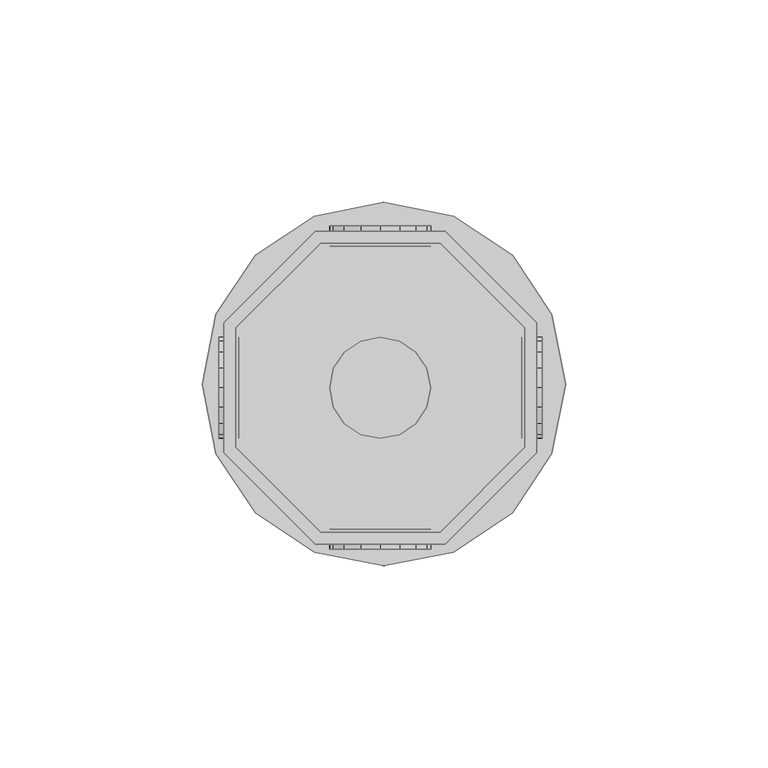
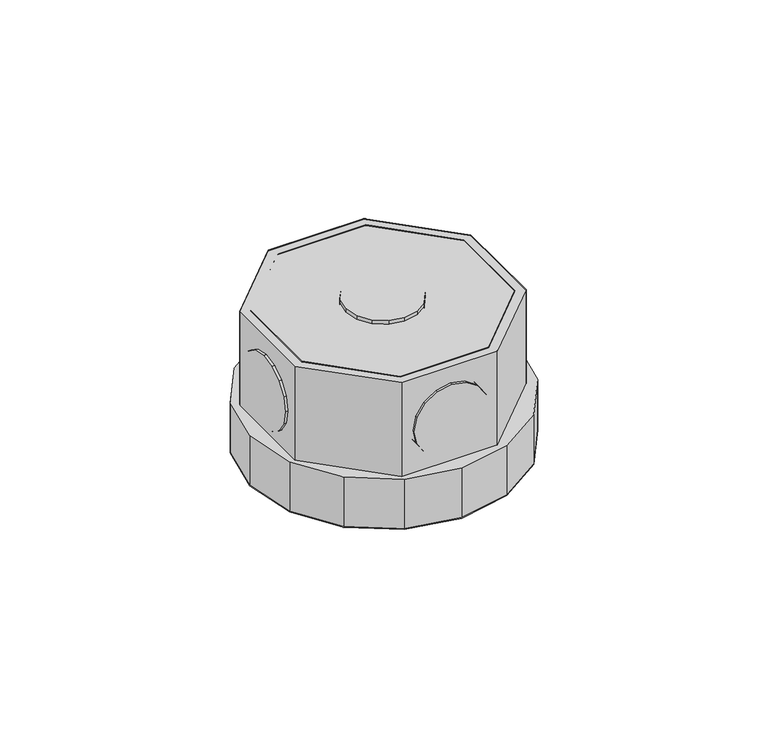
"""IFC4 building model written with IfcOpenShell, lengths in millimetres: light fixture geometry,  213096 :  213096."""

from ifc_helpers import new_model, si_unit, origin, place, context, project, spatial, triangles, source, transform, mapped, element, save


def light_fixture_41befa30(model_context):
    return source(origin(), model_context, "Body", "Tessellation", [
        triangles([(2384.0999714, 12257.0995148, 2924.5999741), (2384.0999714, 12227.5001587, 2975.400071), (2384.0999714, 12227.5001587, 2924.5999741), (2384.0999714, 12257.0995148, 2975.400071), (2458.5999298, 12258.2994415, 2924.5999741), (2458.5999298, 12226.200238, 2975.400071), (2458.5999298, 12226.200238, 2924.5999741), (2458.5999298, 12258.2994415, 2975.400071), (2405.0999977, 12206.5002777, 2975.400071), (2405.0999977, 12206.5002777, 2924.5999741), (2435.9000072, 12281.0003815, 2924.5999741), (2435.9000072, 12281.0003815, 2975.400071), (2434.6999352, 12206.5002777, 2975.400071), (2434.6999352, 12206.5002777, 2924.5999741), (2403.7999317, 12281.0003815, 2924.5999741), (2403.7999317, 12281.0003815, 2975.400071), (2455.6001129, 12227.5001587, 2975.400071), (2455.6001129, 12227.5001587, 2924.5999741), (2381.1000092, 12258.2994415, 2924.5999741), (2381.1000092, 12258.2994415, 2975.400071), (2455.6001129, 12257.0995148, 2924.5999741), (2455.6001129, 12257.0995148, 2975.400071), (2381.1000092, 12226.200238, 2975.400071), (2381.1000092, 12226.200238, 2924.5999741), (2434.6999352, 12278.0005646, 2924.5999741), (2434.6999352, 12278.0005646, 2975.400071), (2403.7999317, 12203.5004608, 2975.400071), (2403.7999317, 12203.5004608, 2924.5999741), (2435.9000072, 12203.5004608, 2975.400071), (2405.0999977, 12278.0005646, 2975.400071), (2405.0999977, 12278.0005646, 2924.5999741), (2435.9000072, 12203.5004608, 2924.5999741), (2434.6999352, 12206.5002777, 2972.3999634), (2455.6001129, 12227.5001587, 2972.3999634), (2455.6001129, 12257.0995148, 2972.3999634), (2434.6999352, 12278.0005646, 2972.3999634), (2405.0999977, 12278.0005646, 2972.3999634), (2384.0999714, 12257.0995148, 2972.3999634), (2384.0999714, 12227.5001587, 2972.3999634), (2405.0999977, 12206.5002777, 2972.3999634), (2403.7999317, 12203.5004608, 2942.4000504), (2381.1000092, 12226.200238, 2942.4000504), (2381.1000092, 12258.2994415, 2942.4000504), (2403.7999317, 12281.0003815, 2942.4000504), (2435.9000072, 12281.0003815, 2942.4000504), (2458.5999298, 12258.2994415, 2942.4000504), (2458.5999298, 12226.200238, 2942.4000504), (2435.9000072, 12203.5004608, 2942.4000504), (2462.2999947, 12225.9002563, 2942.4000504), (2438.0000244, 12201.6005768, 2942.4000504), (2452.6000053, 12211.2999847, 2942.4000504), (2420.8000568, 12198.1996216, 2942.4000504), (2403.49995, 12201.6005768, 2942.4000504), (2388.8999691, 12211.2999847, 2942.4000504), (2379.1999798, 12225.9002563, 2942.4000504), (2375.800042, 12243.2003632, 2942.4000504), (2379.1999798, 12260.4004761, 2942.4000504), (2403.49995, 12284.7001556, 2942.4000504), (2388.8999691, 12274.999585, 2942.4000504), (2465.8000717, 12243.2003632, 2942.4000504), (2462.2999947, 12260.4004761, 2942.4000504), (2452.6000053, 12274.999585, 2942.4000504), (2438.0000244, 12284.7001556, 2942.4000504), (2420.8000568, 12288.199942, 2942.4000504), (2438.0000244, 12201.6005768, 2924.5999741), (2462.2999947, 12225.9002563, 2924.5999741), (2452.6000053, 12211.2999847, 2924.5999741), (2420.8000568, 12198.1996216, 2924.5999741), (2403.49995, 12201.6005768, 2924.5999741), (2388.8999691, 12211.2999847, 2924.5999741), (2379.1999798, 12225.9002563, 2924.5999741), (2375.800042, 12243.2003632, 2924.5999741), (2379.1999798, 12260.4004761, 2924.5999741), (2403.49995, 12284.7001556, 2924.5999741), (2388.8999691, 12274.999585, 2924.5999741), (2465.8000717, 12243.2003632, 2924.5999741), (2462.2999947, 12260.4004761, 2924.5999741), (2452.6000053, 12274.999585, 2924.5999741), (2438.0000244, 12284.7001556, 2924.5999741), (2420.8000568, 12288.199942, 2924.5999741), (2379.8999371, 12230.6999634, 2952.6000092), (2379.8999371, 12237.4995483, 2945.9001274), (2379.8999371, 12233.3997986, 2948.5999626), (2379.8999371, 12229.8000183, 2957.4000069), (2379.8999371, 12242.3004181, 2944.8998978), (2379.8999371, 12230.6999634, 2962.2000046), (2379.8999371, 12247.1001251, 2945.9001274), (2379.8999371, 12233.3997986, 2966.2000511), (2379.8999371, 12251.099881, 2948.5999626), (2379.8999371, 12237.4995483, 2968.8998863), (2379.8999371, 12253.7997162, 2952.6000092), (2379.8999371, 12242.3004181, 2969.900116), (2379.8999371, 12254.7996552, 2957.4000069), (2379.8999371, 12247.1001251, 2968.8998863), (2379.8999371, 12253.7997162, 2962.2000046), (2379.8999371, 12251.099881, 2966.2000511), (2384.9000679, 12237.4995483, 2945.9001274), (2384.9000679, 12230.6999634, 2952.6000092), (2384.9000679, 12233.3997986, 2948.5999626), (2384.9000679, 12242.3004181, 2944.8998978), (2384.9000679, 12229.8000183, 2957.4000069), (2384.9000679, 12247.1001251, 2945.9001274), (2384.9000679, 12230.6999634, 2962.2000046), (2384.9000679, 12251.099881, 2948.5999626), (2384.9000679, 12233.3997986, 2966.2000511), (2384.9000679, 12237.4995483, 2968.8998863), (2384.9000679, 12253.7997162, 2952.6000092), (2384.9000679, 12242.3004181, 2969.900116), (2384.9000679, 12254.7996552, 2957.4000069), (2384.9000679, 12247.1001251, 2968.8998863), (2384.9000679, 12253.7997162, 2962.2000046), (2384.9000679, 12251.099881, 2966.2000511), (2454.899865, 12230.6999634, 2952.6000092), (2454.899865, 12237.4995483, 2945.9001274), (2454.899865, 12233.3997986, 2948.5999626), (2454.899865, 12229.8000183, 2957.4000069), (2454.899865, 12242.3004181, 2944.8998978), (2454.899865, 12230.6999634, 2962.2000046), (2454.899865, 12247.1001251, 2945.9001274), (2454.899865, 12233.3997986, 2966.2000511), (2454.899865, 12251.099881, 2948.5999626), (2454.899865, 12237.4995483, 2968.8998863), (2454.899865, 12253.7997162, 2952.6000092), (2454.899865, 12242.3004181, 2969.900116), (2454.899865, 12254.7996552, 2957.4000069), (2454.899865, 12247.1001251, 2968.8998863), (2454.899865, 12253.7997162, 2962.2000046), (2454.899865, 12251.099881, 2966.2000511), (2459.9001411, 12237.4995483, 2945.9001274), (2459.9001411, 12230.6999634, 2952.6000092), (2459.9001411, 12233.3997986, 2948.5999626), (2459.9001411, 12242.3004181, 2944.8998978), (2459.9001411, 12229.8000183, 2957.4000069), (2459.9001411, 12247.1001251, 2945.9001274), (2459.9001411, 12230.6999634, 2962.2000046), (2459.9001411, 12251.099881, 2948.5999626), (2459.9001411, 12233.3997986, 2966.2000511), (2459.9001411, 12237.4995483, 2968.8998863), (2459.9001411, 12253.7997162, 2952.6000092), (2459.9001411, 12242.3004181, 2969.900116), (2459.9001411, 12254.7996552, 2957.4000069), (2459.9001411, 12247.1001251, 2968.8998863), (2459.9001411, 12253.7997162, 2962.2000046), (2459.9001411, 12251.099881, 2966.2000511), (2424.6999641, 12207.3002289, 2945.9001274), (2431.3999912, 12207.3002289, 2952.6000092), (2428.7000107, 12207.3002289, 2948.5999626), (2419.8999664, 12207.3002289, 2944.8998978), (2432.3999302, 12207.3002289, 2957.4000069), (2415.0999687, 12207.3002289, 2945.9001274), (2431.3999912, 12207.3002289, 2962.2000046), (2410.9999283, 12207.3002289, 2948.5999626), (2428.7000107, 12207.3002289, 2966.2000511), (2424.6999641, 12207.3002289, 2968.8998863), (2408.2999477, 12207.3002289, 2952.6000092), (2419.8999664, 12207.3002289, 2969.900116), (2407.4000027, 12207.3002289, 2957.4000069), (2415.0999687, 12207.3002289, 2968.8998863), (2408.2999477, 12207.3002289, 2962.2000046), (2410.9999283, 12207.3002289, 2966.2000511), (2431.3999912, 12202.3005341, 2952.6000092), (2424.6999641, 12202.3005341, 2945.9001274), (2428.7000107, 12202.3005341, 2948.5999626), (2432.3999302, 12202.3005341, 2957.4000069), (2419.8999664, 12202.3005341, 2944.8998978), (2431.3999912, 12202.3005341, 2962.2000046), (2415.0999687, 12202.3005341, 2945.9001274), (2428.7000107, 12202.3005341, 2966.2000511), (2410.9999283, 12202.3005341, 2948.5999626), (2424.6999641, 12202.3005341, 2968.8998863), (2408.2999477, 12202.3005341, 2952.6000092), (2419.8999664, 12202.3005341, 2969.900116), (2407.4000027, 12202.3005341, 2957.4000069), (2415.0999687, 12202.3005341, 2968.8998863), (2408.2999477, 12202.3005341, 2962.2000046), (2410.9999283, 12202.3005341, 2966.2000511), (2424.6999641, 12282.3003021, 2945.9001274), (2431.3999912, 12282.3003021, 2952.6000092), (2428.7000107, 12282.3003021, 2948.5999626), (2419.8999664, 12282.3003021, 2944.8998978), (2432.3999302, 12282.3003021, 2957.4000069), (2415.0999687, 12282.3003021, 2945.9001274), (2431.3999912, 12282.3003021, 2962.2000046), (2410.9999283, 12282.3003021, 2948.5999626), (2428.7000107, 12282.3003021, 2966.2000511), (2424.6999641, 12282.3003021, 2968.8998863), (2408.2999477, 12282.3003021, 2952.6000092), (2419.8999664, 12282.3003021, 2969.900116), (2407.4000027, 12282.3003021, 2957.4000069), (2415.0999687, 12282.3003021, 2968.8998863), (2408.2999477, 12282.3003021, 2962.2000046), (2410.9999283, 12282.3003021, 2966.2000511), (2431.3999912, 12277.2994446, 2952.6000092), (2424.6999641, 12277.2994446, 2945.9001274), (2428.7000107, 12277.2994446, 2948.5999626), (2432.3999302, 12277.2994446, 2957.4000069), (2419.8999664, 12277.2994446, 2944.8998978), (2431.3999912, 12277.2994446, 2962.2000046), (2415.0999687, 12277.2994446, 2945.9001274), (2428.7000107, 12277.2994446, 2966.2000511), (2410.9999283, 12277.2994446, 2948.5999626), (2424.6999641, 12277.2994446, 2968.8998863), (2408.2999477, 12277.2994446, 2952.6000092), (2419.8999664, 12277.2994446, 2969.900116), (2407.4000027, 12277.2994446, 2957.4000069), (2415.0999687, 12277.2994446, 2968.8998863), (2408.2999477, 12277.2994446, 2962.2000046), (2410.9999283, 12277.2994446, 2966.2000511), (2431.3999912, 12237.4995483, 2976.9999733), (2424.6999641, 12230.6999634, 2976.9999733), (2428.7000107, 12233.3997986, 2976.9999733), (2419.8999664, 12229.8000183, 2976.9999733), (2432.3999302, 12242.3004181, 2976.9999733), (2415.0999687, 12230.6999634, 2976.9999733), (2431.3999912, 12247.1001251, 2976.9999733), (2410.9999283, 12233.3997986, 2976.9999733), (2428.7000107, 12251.099881, 2976.9999733), (2408.2999477, 12237.4995483, 2976.9999733), (2424.6999641, 12253.7997162, 2976.9999733), (2407.4000027, 12242.3004181, 2976.9999733), (2419.8999664, 12254.7996552, 2976.9999733), (2408.2999477, 12247.1001251, 2976.9999733), (2415.0999687, 12253.7997162, 2976.9999733), (2410.9999283, 12251.099881, 2976.9999733), (2424.6999641, 12230.6999634, 2971.9999878), (2431.3999912, 12237.4995483, 2971.9999878), (2428.7000107, 12233.3997986, 2971.9999878), (2419.8999664, 12229.8000183, 2971.9999878), (2432.3999302, 12242.3004181, 2971.9999878), (2415.0999687, 12230.6999634, 2971.9999878), (2431.3999912, 12247.1001251, 2971.9999878), (2410.9999283, 12233.3997986, 2971.9999878), (2428.7000107, 12251.099881, 2971.9999878), (2408.2999477, 12237.4995483, 2971.9999878), (2424.6999641, 12253.7997162, 2971.9999878), (2407.4000027, 12242.3004181, 2971.9999878), (2419.8999664, 12254.7996552, 2971.9999878), (2408.2999477, 12247.1001251, 2971.9999878), (2415.0999687, 12253.7997162, 2971.9999878), (2410.9999283, 12251.099881, 2971.9999878)], [[1, 2, 3], [2, 1, 4], [5, 6, 7], [6, 5, 8], [3, 9, 10], [9, 3, 2], [11, 8, 5], [8, 11, 12], [10, 13, 14], [13, 10, 9], [15, 12, 11], [12, 15, 16], [14, 17, 18], [17, 14, 13], [19, 16, 15], [16, 19, 20], [17, 21, 18], [21, 17, 22], [23, 19, 24], [19, 23, 20], [22, 25, 21], [25, 22, 26], [27, 24, 28], [24, 27, 23], [6, 13, 29], [29, 13, 27], [27, 13, 9], [27, 9, 23], [23, 9, 2], [23, 2, 4], [23, 4, 20], [20, 4, 30], [8, 17, 6], [6, 17, 13], [17, 8, 22], [12, 22, 8], [22, 12, 26], [30, 26, 12], [16, 30, 12], [20, 30, 16], [30, 1, 31], [1, 30, 4], [6, 32, 7], [32, 6, 29], [32, 14, 7], [28, 14, 32], [14, 28, 10], [24, 10, 28], [10, 24, 3], [1, 3, 24], [19, 1, 24], [31, 1, 19], [7, 18, 5], [14, 18, 7], [5, 18, 21], [5, 21, 11], [11, 21, 25], [11, 25, 31], [11, 31, 15], [15, 31, 19], [26, 31, 25], [31, 26, 30], [29, 28, 32], [28, 29, 27], [17, 33, 34], [33, 17, 13], [35, 17, 34], [17, 35, 22], [36, 22, 35], [22, 36, 26], [37, 26, 36], [26, 37, 30], [38, 30, 37], [30, 38, 4], [2, 38, 39], [38, 2, 4], [17, 9, 13], [9, 17, 22], [9, 22, 2], [2, 22, 26], [2, 26, 4], [4, 26, 30], [13, 40, 33], [40, 13, 9], [40, 34, 33], [35, 34, 40], [35, 40, 39], [35, 39, 36], [36, 39, 38], [36, 38, 37], [9, 39, 40], [39, 9, 2], [24, 41, 28], [41, 24, 42], [19, 42, 24], [42, 19, 43], [44, 19, 15], [19, 44, 43], [45, 15, 11], [15, 45, 44], [46, 11, 5], [11, 46, 45], [47, 5, 7], [5, 47, 46], [32, 47, 7], [47, 32, 48], [28, 48, 32], [48, 28, 41], [49, 50, 51], [48, 50, 49], [50, 48, 52], [41, 52, 48], [52, 41, 53], [53, 41, 54], [42, 54, 41], [54, 42, 55], [55, 42, 43], [55, 43, 56], [56, 43, 57], [57, 43, 44], [57, 44, 58], [57, 58, 59], [47, 49, 60], [49, 47, 48], [47, 60, 46], [61, 46, 60], [46, 61, 62], [46, 62, 45], [45, 62, 63], [44, 45, 63], [44, 63, 64], [44, 64, 58], [65, 66, 67], [66, 65, 32], [68, 32, 65], [32, 68, 28], [28, 68, 69], [70, 28, 69], [28, 70, 24], [71, 24, 70], [19, 24, 71], [19, 71, 72], [73, 19, 72], [19, 73, 15], [74, 15, 73], [74, 73, 75], [76, 66, 7], [32, 7, 66], [5, 76, 7], [76, 5, 77], [77, 5, 78], [11, 78, 5], [78, 11, 79], [79, 11, 15], [79, 15, 80], [80, 15, 74], [57, 75, 73], [75, 57, 59], [56, 73, 72], [73, 56, 57], [55, 72, 71], [72, 55, 56], [54, 71, 70], [71, 54, 55], [53, 70, 69], [70, 53, 54], [52, 69, 68], [69, 52, 53], [50, 68, 65], [68, 50, 52], [51, 65, 67], [65, 51, 50], [66, 51, 67], [51, 66, 49], [76, 49, 66], [49, 76, 60], [77, 60, 76], [60, 77, 61], [78, 61, 77], [61, 78, 62], [79, 62, 78], [62, 79, 63], [80, 63, 79], [63, 80, 64], [75, 58, 74], [58, 75, 59], [74, 64, 80], [64, 74, 58], [81, 82, 83], [82, 81, 84], [85, 82, 84], [85, 84, 86], [87, 85, 86], [87, 86, 88], [87, 88, 89], [89, 88, 90], [89, 90, 91], [91, 90, 92], [91, 92, 93], [93, 92, 94], [93, 94, 95], [95, 94, 96], [97, 98, 99], [98, 97, 100], [101, 98, 100], [101, 100, 102], [103, 101, 102], [103, 102, 104], [103, 104, 105], [105, 104, 106], [106, 104, 107], [106, 107, 108], [108, 107, 109], [108, 109, 110], [110, 109, 111], [110, 111, 112], [87, 104, 102], [104, 87, 89], [85, 102, 100], [102, 85, 87], [82, 100, 97], [100, 82, 85], [83, 97, 99], [97, 83, 82], [98, 83, 99], [83, 98, 81], [101, 81, 98], [81, 101, 84], [103, 84, 101], [84, 103, 86], [105, 86, 103], [86, 105, 88], [106, 88, 105], [88, 106, 90], [108, 90, 106], [90, 108, 92], [110, 92, 108], [92, 110, 94], [112, 94, 110], [94, 112, 96], [95, 112, 111], [112, 95, 96], [93, 111, 109], [111, 93, 95], [89, 107, 104], [107, 89, 91], [91, 109, 107], [109, 91, 93], [113, 114, 115], [114, 113, 116], [117, 114, 116], [117, 116, 118], [119, 117, 118], [119, 118, 120], [119, 120, 121], [121, 120, 122], [121, 122, 123], [123, 122, 124], [123, 124, 125], [125, 124, 126], [125, 126, 127], [127, 126, 128], [129, 130, 131], [130, 129, 132], [133, 130, 132], [133, 132, 134], [135, 133, 134], [135, 134, 136], [135, 136, 137], [137, 136, 138], [138, 136, 139], [138, 139, 140], [140, 139, 141], [140, 141, 142], [142, 141, 143], [142, 143, 144], [119, 136, 134], [136, 119, 121], [117, 134, 132], [134, 117, 119], [114, 132, 129], [132, 114, 117], [115, 129, 131], [129, 115, 114], [130, 115, 131], [115, 130, 113], [133, 113, 130], [113, 133, 116], [135, 116, 133], [116, 135, 118], [137, 118, 135], [118, 137, 120], [138, 120, 137], [120, 138, 122], [140, 122, 138], [122, 140, 124], [142, 124, 140], [124, 142, 126], [144, 126, 142], [126, 144, 128], [127, 144, 143], [144, 127, 128], [125, 143, 141], [143, 125, 127], [121, 139, 136], [139, 121, 123], [123, 141, 139], [141, 123, 125], [145, 146, 147], [146, 145, 148], [149, 146, 148], [149, 148, 150], [151, 149, 150], [151, 150, 152], [151, 152, 153], [153, 152, 154], [154, 152, 155], [154, 155, 156], [156, 155, 157], [156, 157, 158], [158, 157, 159], [158, 159, 160], [161, 162, 163], [162, 161, 164], [165, 162, 164], [165, 164, 166], [167, 165, 166], [167, 166, 168], [169, 167, 168], [169, 168, 170], [169, 170, 171], [171, 170, 172], [171, 172, 173], [173, 172, 174], [173, 174, 175], [175, 174, 176], [158, 176, 174], [176, 158, 160], [156, 174, 172], [174, 156, 158], [154, 172, 170], [172, 154, 156], [153, 170, 168], [170, 153, 154], [151, 168, 166], [168, 151, 153], [149, 166, 164], [166, 149, 151], [146, 164, 161], [164, 146, 149], [147, 161, 163], [161, 147, 146], [162, 147, 163], [147, 162, 145], [165, 145, 162], [145, 165, 148], [167, 148, 165], [148, 167, 150], [169, 150, 167], [150, 169, 152], [171, 152, 169], [152, 171, 155], [173, 155, 171], [155, 173, 157], [176, 159, 175], [159, 176, 160], [175, 157, 173], [157, 175, 159], [177, 178, 179], [178, 177, 180], [181, 178, 180], [181, 180, 182], [183, 181, 182], [183, 182, 184], [183, 184, 185], [185, 184, 186], [186, 184, 187], [186, 187, 188], [188, 187, 189], [188, 189, 190], [190, 189, 191], [190, 191, 192], [193, 194, 195], [194, 193, 196], [197, 194, 196], [197, 196, 198], [199, 197, 198], [199, 198, 200], [201, 199, 200], [201, 200, 202], [201, 202, 203], [203, 202, 204], [203, 204, 205], [205, 204, 206], [205, 206, 207], [207, 206, 208], [190, 208, 206], [208, 190, 192], [188, 206, 204], [206, 188, 190], [186, 204, 202], [204, 186, 188], [185, 202, 200], [202, 185, 186], [183, 200, 198], [200, 183, 185], [181, 198, 196], [198, 181, 183], [178, 196, 193], [196, 178, 181], [179, 193, 195], [193, 179, 178], [194, 179, 195], [179, 194, 177], [197, 177, 194], [177, 197, 180], [199, 180, 197], [180, 199, 182], [201, 182, 199], [182, 201, 184], [203, 184, 201], [184, 203, 187], [205, 187, 203], [187, 205, 189], [208, 191, 207], [191, 208, 192], [207, 189, 205], [189, 207, 191], [209, 210, 211], [212, 210, 209], [212, 209, 213], [214, 212, 213], [214, 213, 215], [216, 214, 215], [216, 215, 217], [216, 217, 218], [218, 217, 219], [218, 219, 220], [220, 219, 221], [220, 221, 222], [222, 221, 223], [222, 223, 224], [225, 226, 227], [226, 225, 228], [229, 226, 228], [229, 228, 230], [231, 229, 230], [231, 230, 232], [231, 232, 233], [233, 232, 234], [233, 234, 235], [235, 234, 236], [235, 236, 237], [237, 236, 238], [237, 238, 239], [239, 238, 240], [222, 240, 238], [240, 222, 224], [220, 238, 236], [238, 220, 222], [218, 236, 234], [236, 218, 220], [216, 234, 232], [234, 216, 218], [214, 232, 230], [232, 214, 216], [212, 230, 228], [230, 212, 214], [210, 228, 225], [228, 210, 212], [211, 225, 227], [225, 211, 210], [226, 211, 227], [211, 226, 209], [229, 209, 226], [209, 229, 213], [231, 213, 229], [213, 231, 215], [233, 215, 231], [215, 233, 217], [235, 217, 233], [217, 235, 219], [237, 219, 235], [219, 237, 221], [240, 223, 239], [223, 240, 224], [239, 221, 237], [221, 239, 223]], closed=False),
    ])


if __name__ == "__main__":
    model = new_model("IFC4")
    model_context = context("Model", 3, world=origin())
    ifc_project = project(units=[si_unit("LENGTHUNIT", "METRE", prefix="MILLI")], contexts=[model_context])
    site = spatial("IfcSite", under=ifc_project)
    building = spatial("IfcBuilding", under=site)
    placement = place(None, origin())
    light_fixture_shape = light_fixture_41befa30(model_context)
    element("IfcLightFixture", 1, ObjectType=" 213096 :  213096", at=placement, inside=building, context=model_context, shape_type="MappedRepresentation", body=[
        mapped(light_fixture_shape, transform((0.0, 0.0, 0.0), x_axis=(1.0, 0.0, 0.0), y_axis=(0.0, 1.0, 0.0), z_axis=(0.0, 0.0, 1.0))),
    ])
    save(model, "model.ifc")
